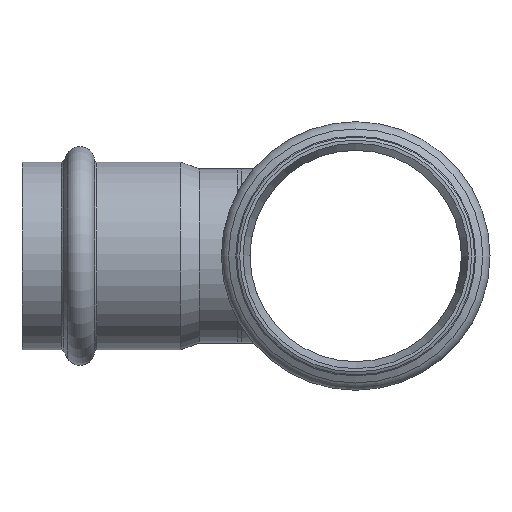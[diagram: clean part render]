
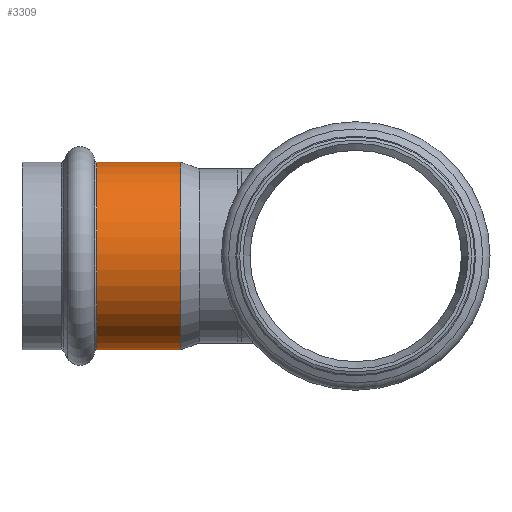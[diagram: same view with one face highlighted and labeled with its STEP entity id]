
A CAD part, left-side view. The second image highlights one B-rep face of the part: STEP entity #3309.
In plain terms, the highlighted cylindrical face has radius 22.65 mm (diameter 45.3 mm), a full revolution.
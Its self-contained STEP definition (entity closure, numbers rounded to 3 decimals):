
#3278=CARTESIAN_POINT('',(-35.008,22.65,0.));
#3279=VERTEX_POINT('',#3278);
#3280=CARTESIAN_POINT('',(-35.008,0.0,0.0));
#3281=DIRECTION('',(-1.0,0.0,0.0));
#3282=DIRECTION('',(0.0,-1.0,0.0));
#3283=AXIS2_PLACEMENT_3D('',#3280,#3281,#3282);
#3284=CIRCLE('',#3283,22.65);
#3285=EDGE_CURVE('',#3279,#3279,#3284,.T.);
#3290=CARTESIAN_POINT('',(-25.122,0.0,0.0));
#3291=DIRECTION('',(1.0,0.0,0.0));
#3292=DIRECTION('',(0.0,1.0,0.0));
#3293=AXIS2_PLACEMENT_3D('',#3290,#3291,#3292);
#3294=CYLINDRICAL_SURFACE('',#3293,22.65);
#3295=CARTESIAN_POINT('',(-14.736,22.65,0.0));
#3296=VERTEX_POINT('',#3295);
#3297=CARTESIAN_POINT('',(-14.736,0.0,0.0));
#3298=DIRECTION('',(1.0,0.0,0.0));
#3299=DIRECTION('',(0.0,1.0,0.0));
#3300=AXIS2_PLACEMENT_3D('',#3297,#3298,#3299);
#3301=CIRCLE('',#3300,22.65);
#3302=EDGE_CURVE('',#3296,#3296,#3301,.T.);
#3303=ORIENTED_EDGE('',*,*,#3302,.F.);
#3304=EDGE_LOOP('',(#3303));
#3305=FACE_OUTER_BOUND('',#3304,.T.);
#3306=ORIENTED_EDGE('',*,*,#3285,.F.);
#3307=EDGE_LOOP('',(#3306));
#3308=FACE_BOUND('',#3307,.T.);
#3309=ADVANCED_FACE('',(#3305,#3308),#3294,.T.);
